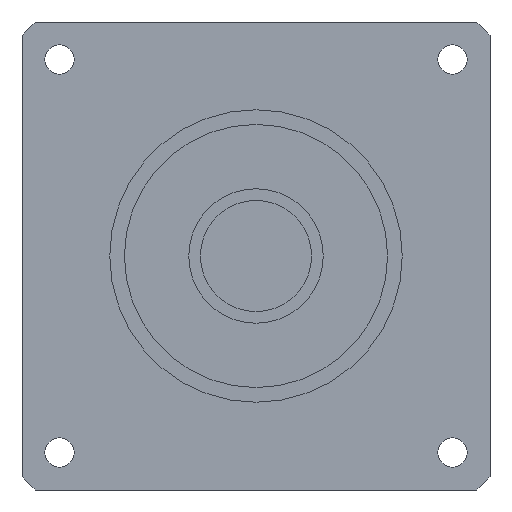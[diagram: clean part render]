
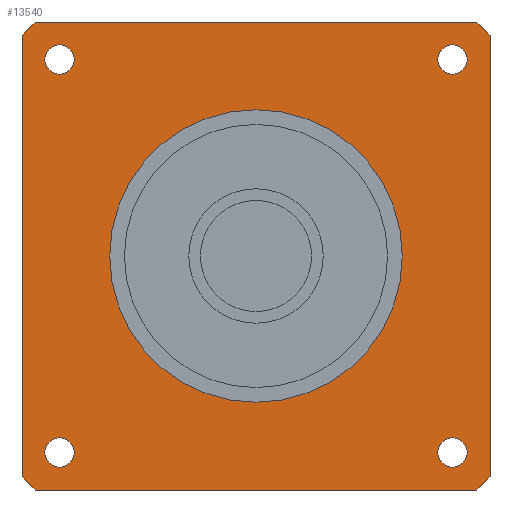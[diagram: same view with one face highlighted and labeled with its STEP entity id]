
A CAD part, left-side view. The second image highlights one B-rep face of the part: STEP entity #13540.
In plain terms, the highlighted planar face has unit normal (-1, 0, 0) as drawn and (0, 0, -1) by its records, which use the part's own axes.
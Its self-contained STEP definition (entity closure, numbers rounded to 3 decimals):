
#8830=CARTESIAN_POINT('',(-40.,-37.749,-42.2));
#8840=VERTEX_POINT('',#8830);
#8890=CARTESIAN_POINT('',(-40.,40.,-42.2));
#8900=DIRECTION('',(0.,-1.,0.));
#8910=VECTOR('',#8900,1000.);
#8920=LINE('',#8890,#8910);
#8930=CARTESIAN_POINT('',(-40.,37.749,-42.2));
#8940=VERTEX_POINT('',#8930);
#8950=EDGE_CURVE('',#8940,#8840,#8920,.T.);
#9230=CARTESIAN_POINT('',(-37.749,40.,-42.2));
#9240=VERTEX_POINT('',#9230);
#9370=CARTESIAN_POINT('',(0.,0.,
-42.2));
#9380=DIRECTION('',(0.,0.,1.));
#9390=DIRECTION('',(0.,1.,0.));
#9400=AXIS2_PLACEMENT_3D('',#9370,#9380,#9390);
#9410=CIRCLE('',#9400,55.);
#9420=EDGE_CURVE('',#9240,#8940,#9410,.T.);
#12080=CARTESIAN_POINT('',(33.588,-31.088,-42.2));
#12090=VERTEX_POINT('',#12080);
#12170=CARTESIAN_POINT('',(33.588,-36.088,-42.2));
#12180=VERTEX_POINT('',#12170);
#12210=CARTESIAN_POINT('',(33.588,-33.588,-42.2));
#12220=DIRECTION('',(0.,0.,1.));
#12230=DIRECTION('',(0.,1.,0.));
#12240=AXIS2_PLACEMENT_3D('',#12210,#12220,#12230);
#12250=CIRCLE('',#12240,2.5);
#12260=EDGE_CURVE('',#12180,#12090,#12250,.T.);
#12310=CARTESIAN_POINT('',(40.,-40.,-42.2));
#12320=DIRECTION('',(0.,0.,1.));
#12330=DIRECTION('',(0.,1.,0.));
#12340=AXIS2_PLACEMENT_3D('',#12310,#12320,#12330);
#12350=PLANE('',#12340);
#12360=CARTESIAN_POINT('',(-33.588,-33.588,-42.2));
#12370=DIRECTION('',(0.,0.,1.));
#12380=DIRECTION('',(0.,1.,0.));
#12390=AXIS2_PLACEMENT_3D('',#12360,#12370,#12380);
#12400=CIRCLE('',#12390,2.5);
#12410=CARTESIAN_POINT('',(-33.588,-31.088,-42.2));
#12420=VERTEX_POINT('',#12410);
#12430=CARTESIAN_POINT('',(-33.588,-36.088,-42.2));
#12440=VERTEX_POINT('',#12430);
#12450=EDGE_CURVE('',#12420,#12440,#12400,.T.);
#12460=ORIENTED_EDGE('',*,*,#12450,.T.);
#12470=EDGE_CURVE('',#12440,#12420,#12400,.T.);
#12480=ORIENTED_EDGE('',*,*,#12470,.T.);
#12490=EDGE_LOOP('',(#12480,#12460));
#12500=FACE_BOUND('',#12490,.T.);
#12510=CARTESIAN_POINT('',(33.588,33.588,-42.2));
#12520=DIRECTION('',(0.,0.,1.));
#12530=DIRECTION('',(0.,1.,0.));
#12540=AXIS2_PLACEMENT_3D('',#12510,#12520,#12530);
#12550=CIRCLE('',#12540,2.5);
#12560=CARTESIAN_POINT('',(33.588,36.088,-42.2));
#12570=VERTEX_POINT('',#12560);
#12580=CARTESIAN_POINT('',(33.588,31.088,-42.2));
#12590=VERTEX_POINT('',#12580);
#12600=EDGE_CURVE('',#12570,#12590,#12550,.T.);
#12610=ORIENTED_EDGE('',*,*,#12600,.T.);
#12620=EDGE_CURVE('',#12590,#12570,#12550,.T.);
#12630=ORIENTED_EDGE('',*,*,#12620,.T.);
#12640=EDGE_LOOP('',(#12630,#12610));
#12650=FACE_BOUND('',#12640,.T.);
#12660=CARTESIAN_POINT('',(-33.588,33.588,-42.2));
#12670=DIRECTION('',(0.,0.,1.));
#12680=DIRECTION('',(0.,1.,0.));
#12690=AXIS2_PLACEMENT_3D('',#12660,#12670,#12680);
#12700=CIRCLE('',#12690,2.5);
#12710=CARTESIAN_POINT('',(-33.588,36.088,-42.2));
#12720=VERTEX_POINT('',#12710);
#12730=CARTESIAN_POINT('',(-33.588,31.088,-42.2));
#12740=VERTEX_POINT('',#12730);
#12750=EDGE_CURVE('',#12720,#12740,#12700,.T.);
#12760=ORIENTED_EDGE('',*,*,#12750,.T.);
#12770=EDGE_CURVE('',#12740,#12720,#12700,.T.);
#12780=ORIENTED_EDGE('',*,*,#12770,.T.);
#12790=EDGE_LOOP('',(#12780,#12760));
#12800=FACE_BOUND('',#12790,.T.);
#12810=CARTESIAN_POINT('',(0.,0.,
-42.2));
#12820=DIRECTION('',(0.,0.,1.));
#12830=DIRECTION('',(0.,-1.,0.));
#12840=AXIS2_PLACEMENT_3D('',#12810,#12820,#12830);
#12850=CIRCLE('',#12840,25.);
#12860=CARTESIAN_POINT('',(0.,-25.,-42.2));
#12870=VERTEX_POINT('',#12860);
#12880=CARTESIAN_POINT('',(0.,25.,-42.2));
#12890=VERTEX_POINT('',#12880);
#12900=EDGE_CURVE('',#12870,#12890,#12850,.T.);
#12910=ORIENTED_EDGE('',*,*,#12900,.T.);
#12920=EDGE_CURVE('',#12890,#12870,#12850,.T.);
#12930=ORIENTED_EDGE('',*,*,#12920,.T.);
#12940=EDGE_LOOP('',(#12930,#12910));
#12950=FACE_BOUND('',#12940,.T.);
#12960=EDGE_CURVE('',#12090,#12180,#12250,.T.);
#12970=ORIENTED_EDGE('',*,*,#12960,.T.);
#12980=ORIENTED_EDGE('',*,*,#12260,.T.);
#12990=EDGE_LOOP('',(#12980,#12970));
#13000=FACE_BOUND('',#12990,.T.);
#13010=ORIENTED_EDGE('',*,*,#9420,.F.);
#13020=ORIENTED_EDGE('',*,*,#8950,.F.);
#13030=CARTESIAN_POINT('',(0.,0.,
-42.2));
#13040=DIRECTION('',(0.,0.,1.));
#13050=DIRECTION('',(0.,1.,0.));
#13060=AXIS2_PLACEMENT_3D('',#13030,#13040,#13050);
#13070=CIRCLE('',#13060,55.);
#13080=CARTESIAN_POINT('',(-37.749,-40.,-42.2));
#13090=VERTEX_POINT('',#13080);
#13100=EDGE_CURVE('',#8840,#13090,#13070,.T.);
#13110=ORIENTED_EDGE('',*,*,#13100,.F.);
#13120=CARTESIAN_POINT('',(-40.,-40.,-42.2));
#13130=DIRECTION('',(1.,0.,0.));
#13140=VECTOR('',#13130,1000.);
#13150=LINE('',#13120,#13140);
#13160=CARTESIAN_POINT('',(37.749,-40.,-42.2));
#13170=VERTEX_POINT('',#13160);
#13180=EDGE_CURVE('',#13090,#13170,#13150,.T.);
#13190=ORIENTED_EDGE('',*,*,#13180,.F.);
#13200=CARTESIAN_POINT('',(0.,0.,
-42.2));
#13210=DIRECTION('',(0.,0.,1.));
#13220=DIRECTION('',(0.,1.,0.));
#13230=AXIS2_PLACEMENT_3D('',#13200,#13210,#13220);
#13240=CIRCLE('',#13230,55.);
#13250=CARTESIAN_POINT('',(40.,-37.749,-42.2));
#13260=VERTEX_POINT('',#13250);
#13270=EDGE_CURVE('',#13170,#13260,#13240,.T.);
#13280=ORIENTED_EDGE('',*,*,#13270,.F.);
#13290=CARTESIAN_POINT('',(40.,-40.,-42.2));
#13300=DIRECTION('',(0.,1.,0.));
#13310=VECTOR('',#13300,1000.);
#13320=LINE('',#13290,#13310);
#13330=CARTESIAN_POINT('',(40.,37.749,-42.2));
#13340=VERTEX_POINT('',#13330);
#13350=EDGE_CURVE('',#13260,#13340,#13320,.T.);
#13360=ORIENTED_EDGE('',*,*,#13350,.F.);
#13370=CARTESIAN_POINT('',(0.,0.,
-42.2));
#13380=DIRECTION('',(0.,0.,1.));
#13390=DIRECTION('',(0.,1.,0.));
#13400=AXIS2_PLACEMENT_3D('',#13370,#13380,#13390);
#13410=CIRCLE('',#13400,55.);
#13420=CARTESIAN_POINT('',(37.749,40.,-42.2));
#13430=VERTEX_POINT('',#13420);
#13440=EDGE_CURVE('',#13340,#13430,#13410,.T.);
#13450=ORIENTED_EDGE('',*,*,#13440,.F.);
#13460=CARTESIAN_POINT('',(40.,40.,-42.2));
#13470=DIRECTION('',(-1.,0.,0.));
#13480=VECTOR('',#13470,1000.);
#13490=LINE('',#13460,#13480);
#13500=EDGE_CURVE('',#13430,#9240,#13490,.T.);
#13510=ORIENTED_EDGE('',*,*,#13500,.F.);
#13520=EDGE_LOOP('',(#13510,#13450,#13360,#13280,#13190,#13110,#13020,
#13010));
#13530=FACE_OUTER_BOUND('',#13520,.T.);
#13540=ADVANCED_FACE('',(#12500,#12650,#12800,#12950,#13000,#13530),
#12350,.F.);
